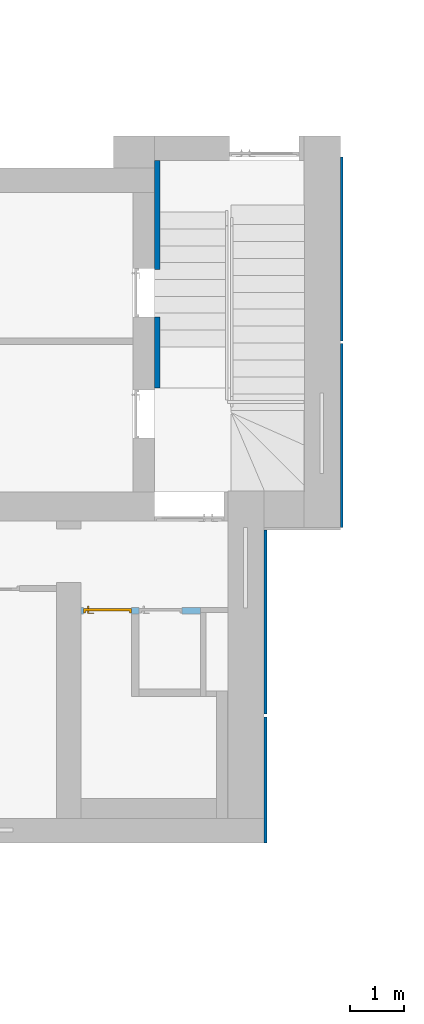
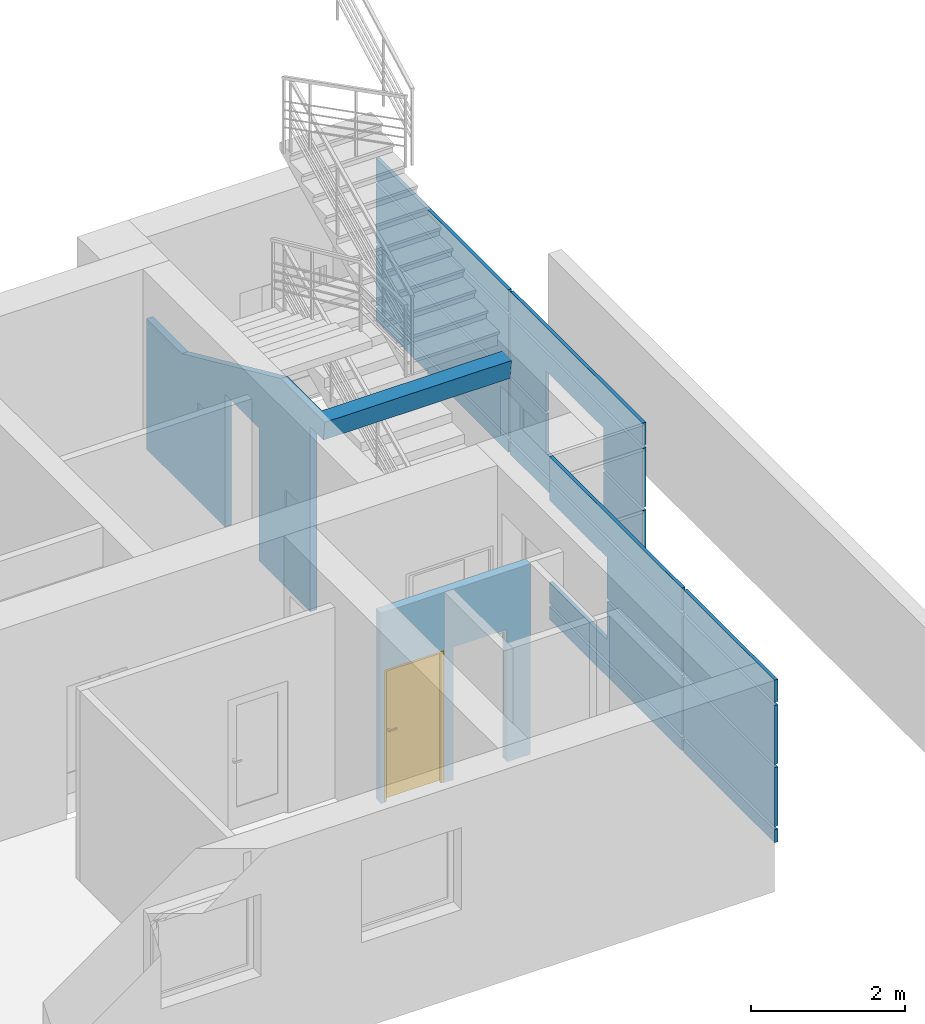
# One storey, part 40 of 49: 3 walls, 1 door, 2 openings, plus 1 element that does not belong to this part.
"""IFC2X3 building model written with IfcOpenShell, lengths in millimetres."""

from ifc_helpers import new_model, entity, si_unit, converted_unit, derived_unit, direction, frame, frame_2d, origin, place, context, subcontext, project, spatial, rectangle, extrude, face_set, faceted_brep, surface_model, source, transform, mapped, material, material_list, layer, layer_set, layer_usage, type_object, type_shapes, element, fill, save


model = new_model("IFC2X3")

# Units and contexts
model_context = context("Model", 3, precision=0.01, world=origin(), true_north=direction((6.12303176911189e-17, 1.0)))
body_context = subcontext(model_context, "Body", "Model", "MODEL_VIEW")
ifc_project = project(units=[si_unit("LENGTHUNIT", "METRE", prefix="MILLI"), si_unit("AREAUNIT", "SQUARE_METRE"), si_unit("VOLUMEUNIT", "CUBIC_METRE"), converted_unit("PLANEANGLEUNIT", "DEGREE", entity("IfcRatioMeasure", 0.0174532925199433), si_unit("PLANEANGLEUNIT", "RADIAN"), dimensions=[0, 0, 0, 0, 0, 0, 0]), si_unit("MASSUNIT", "GRAM", prefix="KILO"), derived_unit("MASSDENSITYUNIT", [(si_unit("MASSUNIT", "GRAM", prefix="KILO"), 1), (si_unit("LENGTHUNIT", "METRE"), -3)]), si_unit("TIMEUNIT", "SECOND"), si_unit("FREQUENCYUNIT", "HERTZ"), si_unit("THERMODYNAMICTEMPERATUREUNIT", "DEGREE_CELSIUS"), derived_unit("THERMALTRANSMITTANCEUNIT", [(si_unit("MASSUNIT", "GRAM", prefix="KILO"), 1), (si_unit("THERMODYNAMICTEMPERATUREUNIT", "KELVIN"), -1), (si_unit("TIMEUNIT", "SECOND"), -3)]), derived_unit("VOLUMETRICFLOWRATEUNIT", [(si_unit("LENGTHUNIT", "METRE"), 3), (si_unit("TIMEUNIT", "SECOND"), -1)]), si_unit("ELECTRICCURRENTUNIT", "AMPERE"), si_unit("ELECTRICVOLTAGEUNIT", "VOLT"), si_unit("POWERUNIT", "WATT"), si_unit("FORCEUNIT", "NEWTON", prefix="KILO"), si_unit("ILLUMINANCEUNIT", "LUX"), si_unit("LUMINOUSFLUXUNIT", "LUMEN"), si_unit("LUMINOUSINTENSITYUNIT", "CANDELA"), derived_unit("USERDEFINED", [(si_unit("MASSUNIT", "GRAM", prefix="KILO"), -1), (si_unit("LENGTHUNIT", "METRE"), -2), (si_unit("TIMEUNIT", "SECOND"), 3), (si_unit("LUMINOUSFLUXUNIT", "LUMEN"), 1)]), derived_unit("LINEARVELOCITYUNIT", [(si_unit("LENGTHUNIT", "METRE"), 1), (si_unit("TIMEUNIT", "SECOND"), -1)]), si_unit("PRESSUREUNIT", "PASCAL"), derived_unit("USERDEFINED", [(si_unit("LENGTHUNIT", "METRE"), -2), (si_unit("MASSUNIT", "GRAM", prefix="KILO"), 1), (si_unit("TIMEUNIT", "SECOND"), -2)])], contexts=[model_context])

# Site, building, storey
site_placement = place(None, frame((-151.875543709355, 2715.0, 0.0)))
site = spatial("IfcSite", under=ifc_project, at=site_placement, Name="Surface", CompositionType="ELEMENT")
building_placement = place(site_placement, origin())
building = spatial("IfcBuilding", under=site, at=building_placement, CompositionType="ELEMENT")
storey_placement = place(building_placement, origin())
storey = spatial("IfcBuildingStorey", under=building, at=storey_placement, Name="1 korrus", CompositionType="ELEMENT", Elevation=3.0969999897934e-10)

# Wall
ifc_material_1 = material(Name="Paint - Light Gray")
wall_type_1 = type_object("IfcWallType", Name="OBJEKT-013", PredefinedType="NOTDEFINED", material=ifc_material_1)
wall_1_placement = place(storey_placement, frame((32371.6162682, 8117.14112622, 0.0), z_axis=(0.0, 0.0, 1.0), x_axis=(0.0, 1.0, 0.0)))
element("IfcWall", 1, at=wall_1_placement, inside=storey, type_object=wall_type_1, material=ifc_material_1, Name="OBJEKT-013:OBJEKT-013", ObjectType="OBJEKT-013:OBJEKT-013", context=body_context, shape_type="SurfaceModel", body=[
    surface_model("IfcFaceBasedSurfaceModel", [(190.167070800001, 0.0, 3230.02767562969), (190.167070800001, -100.0, 3230.02767562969), (247.693511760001, -100.0, 3230.02767562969), (1141.52009683, -100.0, 3230.02767562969), (1141.52009683, 0.0, 3230.02767562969), (190.167070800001, -100.0, 3230.02767562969), (190.167070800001, 0.0, 3230.02767562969), (0.0, 0.0, 3230.02767562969), (0.0, -2800.0, 3230.02767562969), (247.693511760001, -2800.0, 3230.02767562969), (247.693511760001, -100.0, 3230.02767562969), (190.167070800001, -100.0, 2924.57723617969), (247.693511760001, -100.0, 3230.02767562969), (1141.52009683, -100.0, 3230.02767562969), (3713.86615838, -100.0, 2065.07253646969), (4632.85887378, -100.0, 2065.07253646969), (4632.85887378, -100.0, 0.0), (2591.68684618, -100.0, 0.0), (2591.68684618, -100.0, 2100.0), (1711.99536163, -100.0, 2100.0), (1711.99536163, -100.0, 0.0), (379.80330127, -100.0, 0.0), (379.80330127, -100.0, 2924.57723617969), (1141.52009683, 0.0, 3230.02767562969), (1141.52009683, -100.0, 3230.02767562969), (3713.86615838, -100.0, 2065.07253646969), (3713.86615838, 0.0, 2065.07253646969), (190.167070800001, 0.0, 2924.57723617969), (40.9361137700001, 0.0, 2924.57723617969), (0.0, 0.0, 3230.02767562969), (190.167070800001, 0.0, 3230.02767562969), (1141.52009683, 0.0, 3230.02767562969), (3713.86615838, 0.0, 2065.07253646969), (4632.85887378, 0.0, 2065.07253646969), (4632.85887378, 0.0, 0.0), (2591.68684618, 0.0, 0.0), (2591.68684618, 0.0, 2100.0), (1711.99536163, 0.0, 2100.0), (1711.99536163, 0.0, 0.0), (379.80330127, 0.0, 0.0), (379.80330127, 0.0, 2924.57723617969), (0.0, 0.0, 3230.02767562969), (40.9361137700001, 0.0, 2924.57723617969), (40.9361137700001, -2800.0, 2924.57723617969), (0.0, -2800.0, 3230.02767562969), (40.9361137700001, -2800.0, 2924.57723617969), (190.167070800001, -2800.0, 2924.57723617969), (247.693511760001, -2800.0, 3230.02767562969), (0.0, -2800.0, 3230.02767562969), (190.167070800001, -2800.0, 2924.57723617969), (190.167070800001, -100.0, 2924.57723617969), (247.693511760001, -100.0, 3230.02767562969), (247.693511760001, -2800.0, 3230.02767562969), (190.167070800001, 0.0, 2924.57723617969), (379.80330127, 0.0, 2924.57723617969), (379.80330127, -100.0, 2924.57723617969), (190.167070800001, -100.0, 2924.57723617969), (379.80330127, 0.0, 2924.57723617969), (379.80330127, 0.0, 0.0), (379.80330127, -100.0, 0.0), (379.80330127, -100.0, 2924.57723617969), (379.80330127, 0.0, 0.0), (1711.99536163, 0.0, 0.0), (1711.99536163, -100.0, 0.0), (379.80330127, -100.0, 0.0), (1711.99536163, 0.0, 0.0), (1711.99536163, 0.0, 2100.0), (1711.99536163, -100.0, 2100.0), (1711.99536163, -100.0, 0.0), (1711.99536163, 0.0, 2100.0), (2591.68684618, 0.0, 2100.0), (2591.68684618, -100.0, 2100.0), (1711.99536163, -100.0, 2100.0), (2591.68684618, 0.0, 2100.0), (2591.68684618, 0.0, 0.0), (2591.68684618, -100.0, 0.0), (2591.68684618, -100.0, 2100.0), (2591.68684618, 0.0, 0.0), (4632.85887378, 0.0, 0.0), (4632.85887378, -100.0, 0.0), (2591.68684618, -100.0, 0.0), (4632.85887378, 0.0, 0.0), (4632.85887378, 0.0, 2065.07253646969), (4632.85887378, -100.0, 2065.07253646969), (4632.85887378, -100.0, 0.0), (3713.86615838, 0.0, 2065.07253646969), (3713.86615838, -100.0, 2065.07253646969), (4632.85887378, -100.0, 2065.07253646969), (4632.85887378, 0.0, 2065.07253646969), (40.9361137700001, 0.0, 2924.57723617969), (190.167070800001, 0.0, 2924.57723617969), (190.167070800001, -100.0, 2924.57723617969), (190.167070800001, -2800.0, 2924.57723617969), (40.9361137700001, -2800.0, 2924.57723617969)], [face_set([[[0, 1, 2, 3, 4]]]), face_set([[[5, 6, 7, 8, 9, 10]]]), face_set([[[11, 12, 13, 14, 15, 16, 17, 18, 19, 20, 21, 22]]]), face_set([[[23, 24, 25, 26]]]), face_set([[[27, 28, 29, 30, 31, 32, 33, 34, 35, 36, 37, 38, 39, 40]]]), face_set([[[41, 42, 43, 44]]]), face_set([[[45, 46, 47, 48]]]), face_set([[[49, 50, 51, 52]]]), face_set([[[53, 54, 55, 56]]]), face_set([[[57, 58, 59, 60]]]), face_set([[[61, 62, 63, 64]]]), face_set([[[65, 66, 67, 68]]]), face_set([[[69, 70, 71, 72]]]), face_set([[[73, 74, 75, 76]]]), face_set([[[77, 78, 79, 80]]]), face_set([[[81, 82, 83, 84]]]), face_set([[[85, 86, 87, 88]]]), face_set([[[89, 90, 91, 92, 93]]])]),
])

# Wall, openings, door
ifc_material_2 = material(Name="__Kips GN13_tava")
ifc_layer_1 = layer(ifc_material_2, 12.5)
ifc_layer_2 = layer(ifc_material_2, 12.5)
ifc_material_3 = material(Name="__Soojustus EPS")
ifc_layer_3 = layer(ifc_material_3, 66.0)
ifc_material_4 = material(Name="__Kips GKB_niiskuskindel")
ifc_layer_4 = layer(ifc_material_4, 12.5)
ifc_layer_5 = layer(ifc_material_4, 12.5)
ifc_material_5 = material(Name="Keraamiline_plaat")
ifc_layer_6 = layer(ifc_material_5, 10.0)
ifc_layer_set = layer_set([ifc_layer_1, ifc_layer_2, ifc_layer_3, ifc_layer_4, ifc_layer_5, ifc_layer_6], Name="Basic Wall:SS-4_Kipssein tava ja niiske ruumi vahel")
ifc_layer_usage = layer_usage(ifc_layer_set, "AXIS2", "NEGATIVE", 63.0)
wall_type_2 = type_object("IfcWallType", Name="Basic Wall:SS-4_Kipssein tava ja niiske ruumi vahel", PredefinedType="STANDARD", material=ifc_layer_set)
wall_2_placement = place(storey_placement, frame((30994.0171594, 4338.60967891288, 0.0)))
wall_2 = element("IfcWallStandardCase", 2, at=wall_2_placement, inside=storey, type_object=wall_type_2, material=ifc_layer_usage, Name="Basic Wall:SS-4_Kipssein tava ja niiske ruumi vahel", ObjectType="Basic Wall:SS-4_Kipssein tava ja niiske ruumi vahel", context=body_context, shape_type="SweptSolid", body=[
    extrude(rectangle(XDim=2237.7407125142, YDim=126.0, at=frame_2d((1118.8703562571, 1.06581410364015e-14), x_axis=(-1.0, 0.0))), origin(), (0.0, 0.0, 1.0), 3020.0),
])
opening_1_placement = place(wall_2_placement, frame((1090.16571471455, -63.0, 0.0)))
element("IfcOpeningElement", 3, at=opening_1_placement, cuts=wall_2, Name="Ühepoolsed:SU-05.:1", ObjectType="Opening", context=body_context, shape_type="SweptSolid", body=[
    extrude(rectangle(XDim=2099.99999999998, YDim=800.0, at=frame_2d((1049.99999999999, 400.0), x_axis=(1.0, 0.0))), frame((0.0, 0.0, 0.0), z_axis=(0.0, 1.0, 0.0), x_axis=(0.0, 0.0, 1.0)), (0.0, 0.0, 1.0), 126.0),
])
opening_2_placement = place(wall_2_placement, frame((50.1397079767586, -63.0, 0.0)))
opening_2 = element("IfcOpeningElement", 4, at=opening_2_placement, cuts=wall_2, Name="Ühepoolsed:SU-06.:1", ObjectType="Opening", context=body_context, shape_type="SweptSolid", body=[
    extrude(rectangle(XDim=2099.99999999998, YDim=900.0, at=frame_2d((1049.99999999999, 450.0), x_axis=(1.0, 0.0))), frame((0.0, 0.0, 0.0), z_axis=(0.0, 1.0, 0.0), x_axis=(0.0, 0.0, 1.0)), (0.0, 0.0, 1.0), 126.0),
])
ifc_material_6 = material(Name="_Alumiiniumprofiil - must")
ifc_material_7 = material(Name="__Uks_hele tamm")
ifc_material_list_1 = material_list([ifc_material_6, ifc_material_7])
ifc_material_list_2 = material_list([ifc_material_6, ifc_material_7])
door_style = type_object("IfcDoorStyle", Name="SU-06.", ConstructionType="NOTDEFINED", OperationType="FOLDING_TO_LEFT", ParameterTakesPrecedence=False, Sizeable=False, material=ifc_material_list_2)
shared_shape = source(origin(), body_context, "Body", "Brep", [
    faceted_brep([(100.0, 16.0, 1112.5), (100.0, 54.0, 1112.5), (75.0, 54.0, 1112.5), (75.0, 11.0, 1112.5), (195.0, 11.0, 1112.5), (195.0, 16.0, 1112.5), (100.0, 16.0, 1087.5), (195.0, 16.0, 1087.5), (195.0, 11.0, 1087.5), (75.0, 11.0, 1087.5), (75.0, 54.0, 1087.5), (100.0, 54.0, 1087.5)], [[[0, 1, 2, 3, 4, 5]], [[6, 7, 8, 9, 10, 11]], [[1, 0, 6, 11]], [[2, 1, 11, 10]], [[3, 2, 10, 9]], [[4, 3, 9, 8]], [[5, 4, 8, 7]], [[0, 5, 7, 6]]]),
    faceted_brep([(112.5, 54.0, 1137.5), (112.5, 56.0, 1137.5), (62.5, 56.0, 1137.5), (62.5, 54.0, 1137.5), (112.5, 54.0, 1017.5), (62.5, 54.0, 1017.5), (62.5, 56.0, 1017.5), (112.5, 56.0, 1017.5)], [[[0, 1, 2, 3]], [[4, 5, 6, 7]], [[1, 0, 4, 7]], [[2, 1, 7, 6]], [[3, 2, 6, 5]], [[0, 3, 5, 4]]]),
    faceted_brep([(100.0, 146.0, 1112.5), (195.0, 146.0, 1112.5), (195.0, 151.0, 1112.5), (75.0, 151.0, 1112.5), (75.0, 108.0, 1112.5), (100.0, 108.0, 1112.5), (100.0, 146.0, 1087.5), (100.0, 108.0, 1087.5), (75.0, 108.0, 1087.5), (75.0, 151.0, 1087.5), (195.0, 151.0, 1087.5), (195.0, 146.0, 1087.5)], [[[0, 1, 2, 3, 4, 5]], [[6, 7, 8, 9, 10, 11]], [[5, 7, 6, 0]], [[4, 8, 7, 5]], [[3, 9, 8, 4]], [[2, 10, 9, 3]], [[1, 11, 10, 2]], [[0, 6, 11, 1]]]),
    faceted_brep([(112.5, 108.0, 1137.5), (62.5, 108.0, 1137.5), (62.5, 106.0, 1137.5), (112.5, 106.0, 1137.5), (112.5, 108.0, 1017.5), (112.5, 106.0, 1017.5), (62.5, 106.0, 1017.5), (62.5, 108.0, 1017.5)], [[[0, 1, 2, 3]], [[4, 5, 6, 7]], [[3, 5, 4, 0]], [[2, 6, 5, 3]], [[1, 7, 6, 2]], [[0, 4, 7, 1]]]),
    faceted_brep([(900.0, 16.0, 0.0), (860.0, 16.0, 0.0), (860.0, 56.0, 0.0), (875.0, 56.0, 0.0), (875.0, 106.0, 0.0), (900.0, 106.0, 0.0), (900.0, 16.0, 2100.0), (0.0, 16.0, 2100.0), (0.0, 16.0, 0.0), (40.0, 16.0, 0.0), (40.0, 16.0, 2060.0), (860.0, 16.0, 2060.0), (860.0, 56.0, 2060.0), (40.0, 56.0, 2060.0), (40.0, 56.0, 0.0), (25.0, 56.0, 0.0), (25.0, 56.0, 2075.0), (875.0, 56.0, 2075.0), (875.0, 106.0, 2075.0), (25.0, 106.0, 2075.0), (25.0, 106.0, 0.0), (0.0, 106.0, 0.0), (0.0, 106.0, 2100.0), (900.0, 106.0, 2100.0)], [[[0, 1, 2, 3, 4, 5]], [[1, 0, 6, 7, 8, 9, 10, 11]], [[2, 1, 11, 12]], [[3, 2, 12, 13, 14, 15, 16, 17]], [[4, 3, 17, 18]], [[5, 4, 18, 19, 20, 21, 22, 23]], [[0, 5, 23, 6]], [[8, 7, 22, 21]], [[9, 8, 21, 20, 15, 14]], [[10, 9, 14, 13]], [[16, 15, 20, 19]], [[11, 10, 13, 12]], [[17, 16, 19, 18]], [[7, 6, 23, 22]]]),
    faceted_brep([(25.0, 56.0, 2075.0), (25.0, 56.0, 20.0), (875.0, 56.0, 20.0), (875.0, 56.0, 2075.0), (25.0, 106.0, 2075.0), (875.0, 106.0, 2075.0), (875.0, 106.0, 20.0), (25.0, 106.0, 20.0)], [[[0, 1, 2, 3]], [[4, 5, 6, 7]], [[1, 0, 4, 7]], [[2, 1, 7, 6]], [[3, 2, 6, 5]], [[0, 3, 5, 4]]]),
])
type_shapes(door_style, [shared_shape])
door_placement = place(opening_2_placement, origin())
door = element("IfcDoor", 5, at=door_placement, inside=storey, type_object=door_style, material=ifc_material_list_1, Name="Ühepoolsed:SU-06.", ObjectType="SU-06.", OverallHeight=2099.99999999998, OverallWidth=900.000000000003, context=body_context, shape_type="MappedRepresentation", body=[
    mapped(shared_shape, transform((0.0, 0.0, 0.0), scale=1.0)),
])
fill(opening_2, door)

# Walls
ifc_material_8 = material(Name="Steel/Aluminium")
wall_type_3 = type_object("IfcWallType", Name="fassaad5.3:fassaad5.3", PredefinedType="NOTDEFINED", material=ifc_material_8)
wall_3_placement = place(storey_placement, frame((35845.6162682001, 5891.0, 774.90546009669), z_axis=(0.0, 0.0, 1.0), x_axis=(0.0, 1.0, 0.0)))
element("IfcWall", 6, at=wall_3_placement, inside=storey, type_object=wall_type_3, material=ifc_material_8, Name="fassaad5.3:fassaad5.3", ObjectType="fassaad5.3:fassaad5.3", context=body_context, shape_type="Brep", body=[
    faceted_brep([(1012.0, 0.0, 1240.0), (0.0, 0.0, 1240.0), (0.0, 0.0, 2175.0), (3435.0, 0.0, 2175.0), (3435.0, 0.0, 1240.0), (2512.0, 0.0, 1240.0), (2512.0, 0.0, 1885.0), (1012.0, 0.0, 1885.0), (1012.0, -50.0, 1240.0), (0.0, -50.0, 1240.0), (0.0, -50.0, 2175.0), (3435.0, -50.0, 2175.0), (3435.0, -50.0, 1240.0), (1012.0, -50.0, 1885.0), (2512.0, -50.0, 1885.0), (2512.0, -50.0, 1240.0)], [[[0, 1, 2, 3, 4, 5, 6, 7]], [[0, 8, 9, 1]], [[1, 9, 10, 2]], [[3, 11, 12, 4]], [[2, 10, 11, 3]], [[7, 13, 8, 0]], [[6, 14, 13, 7]], [[5, 15, 14, 6]], [[4, 12, 15, 5]], [[8, 13, 14, 15, 12, 11, 10, 9]]]),
    faceted_brep([(6920.0, 0.0, 0.0), (6920.0, -50.0, 0.0), (3485.0, -50.0, 0.0), (3485.0, 0.0, 0.0), (6920.0, 0.0, 205.0), (6920.0, -50.0, 205.0), (3485.0, 0.0, 205.0), (3485.0, -50.0, 205.0)], [[[0, 1, 2, 3]], [[4, 5, 1, 0]], [[6, 7, 5, 4]], [[3, 2, 7, 6]], [[2, 1, 5, 7]], [[3, 6, 4, 0]]]),
    faceted_brep([(3485.0, 0.0, 1190.0), (3485.0, -50.0, 1190.0), (6920.0, -50.0, 1190.0), (6920.0, 0.0, 1190.0), (3485.0, 0.0, 255.0), (3485.0, -50.0, 255.0), (6920.0, 0.0, 255.0), (6920.0, -50.0, 255.0)], [[[0, 1, 2, 3]], [[4, 5, 1, 0]], [[6, 7, 5, 4]], [[3, 2, 7, 6]], [[2, 1, 5, 7]], [[3, 6, 4, 0]]]),
    faceted_brep([(3435.0, 0.0, 1190.0), (3435.0, -50.0, 1190.0), (3435.0, -50.0, 255.0), (3435.0, 0.0, 255.0), (0.0, 0.0, 1190.0), (0.0, -50.0, 1190.0), (1012.0, -50.0, 1190.0), (1012.0, 0.0, 1190.0), (0.0, 0.0, 255.0), (0.0, -50.0, 255.0), (2512.0, 0.0, 1190.0), (2512.0, -50.0, 1190.0), (2512.0, 0.0, 585.0), (2512.0, -50.0, 585.0), (1012.0, 0.0, 585.0), (1012.0, -50.0, 585.0)], [[[0, 1, 2, 3]], [[4, 5, 6, 7]], [[8, 9, 5, 4]], [[3, 2, 9, 8]], [[10, 11, 1, 0]], [[12, 13, 11, 10]], [[14, 15, 13, 12]], [[7, 6, 15, 14]], [[2, 1, 11, 13, 15, 6, 5, 9]], [[3, 8, 4, 7, 14, 12, 10, 0]]]),
    faceted_brep([(0.0, 0.0, 205.0), (0.0, -50.0, 205.0), (3435.0, -50.0, 205.0), (3435.0, 0.0, 205.0), (0.0, 0.0, 0.0), (0.0, -50.0, 0.0), (3435.0, 0.0, 0.0), (3435.0, -50.0, 0.0)], [[[0, 1, 2, 3]], [[4, 5, 1, 0]], [[6, 7, 5, 4]], [[3, 2, 7, 6]], [[2, 1, 5, 7]], [[3, 6, 4, 0]]]),
    faceted_brep([(0.0, 0.0, 2575.0), (0.0, -50.0, 2575.0), (3435.0, -50.0, 2575.0), (3435.0, 0.0, 2575.0), (0.0, 0.0, 2225.0), (0.0, -50.0, 2225.0), (3435.0, -50.0, 2225.0), (3435.0, 0.0, 2225.0)], [[[0, 1, 2, 3]], [[4, 5, 1, 0]], [[3, 2, 6, 7]], [[7, 6, 5, 4]], [[2, 1, 5, 6]], [[3, 7, 4, 0]]]),
    faceted_brep([(6920.0, 0.0, 2575.0), (6920.0, -50.0, 2575.0), (6920.0, -50.0, 2225.0), (6920.0, 0.0, 2225.0), (3485.0, 0.0, 2575.0), (3485.0, -50.0, 2575.0), (3485.0, 0.0, 2225.0), (3485.0, -50.0, 2225.0)], [[[0, 1, 2, 3]], [[4, 5, 1, 0]], [[6, 7, 5, 4]], [[3, 2, 7, 6]], [[7, 2, 1, 5]], [[6, 4, 0, 3]]]),
    faceted_brep([(6920.0, 0.0, 2175.0), (6920.0, -50.0, 2175.0), (6920.0, -50.0, 1240.0), (6920.0, 0.0, 1240.0), (3485.0, -50.0, 1240.0), (3485.0, 0.0, 1240.0), (3485.0, 0.0, 2175.0), (3485.0, -50.0, 2175.0)], [[[0, 1, 2, 3]], [[3, 2, 4, 5]], [[6, 7, 1, 0]], [[5, 4, 7, 6]], [[1, 7, 4, 2]], [[0, 3, 5, 6]]]),
])
wall_type_4 = type_object("IfcWallType", Name="fassaad7.3:fassaad7.3", PredefinedType="NOTDEFINED", material=ifc_material_8)
wall_4_placement = place(storey_placement, frame((34420.6162682, -1079.0, 774.90546009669), z_axis=(0.0, 0.0, 1.0), x_axis=(0.0, 1.0, 0.0)))
element("IfcWall", 7, at=wall_4_placement, inside=storey, type_object=wall_type_4, material=ifc_material_8, Name="fassaad7.3:fassaad7.3", ObjectType="fassaad7.3:fassaad7.3", context=body_context, shape_type="Brep", body=[
    faceted_brep([(3435.0, 0.0, 205.0), (3435.0, 0.0, 0.0), (1080.0, 0.0, 0.0), (1080.0, 0.0, 205.0), (1080.0, -50.0, 205.0), (3435.0, -50.0, 205.0), (1080.0, -50.0, 0.0), (3435.0, -50.0, 0.0)], [[[0, 1, 2, 3]], [[3, 4, 5, 0]], [[2, 6, 4, 3]], [[1, 7, 6, 2]], [[0, 5, 7, 1]], [[5, 4, 6, 7]]]),
    faceted_brep([(6920.0, 0.0, 0.0), (6920.0, -50.0, 0.0), (3485.0, -50.0, 0.0), (3485.0, 0.0, 0.0), (6920.0, 0.0, 205.0), (6920.0, -50.0, 205.0), (3485.0, 0.0, 205.0), (3485.0, -50.0, 205.0)], [[[0, 1, 2, 3]], [[4, 5, 1, 0]], [[6, 7, 5, 4]], [[3, 2, 7, 6]], [[2, 1, 5, 7]], [[3, 6, 4, 0]]]),
    faceted_brep([(3435.0, 0.0, 1190.0), (3435.0, -50.0, 1190.0), (3435.0, -50.0, 255.0), (3435.0, 0.0, 255.0), (1080.0, 0.0, 1190.0), (1080.0, -50.0, 1190.0), (1080.0, 0.0, 255.0), (1080.0, -50.0, 255.0)], [[[0, 1, 2, 3]], [[4, 5, 1, 0]], [[6, 7, 5, 4]], [[3, 2, 7, 6]], [[2, 1, 5, 7]], [[3, 6, 4, 0]]]),
    faceted_brep([(5420.0, 0.0, 585.0), (5420.0, -50.0, 585.0), (6920.0, -50.0, 585.0), (6920.0, 0.0, 585.0), (5420.0, 0.0, 1190.0), (5420.0, -50.0, 1190.0), (3485.0, 0.0, 1190.0), (3485.0, -50.0, 1190.0), (3485.0, 0.0, 255.0), (3485.0, -50.0, 255.0), (6920.0, 0.0, 255.0), (6920.0, -50.0, 255.0)], [[[0, 1, 2, 3]], [[4, 5, 1, 0]], [[6, 7, 5, 4]], [[8, 9, 7, 6]], [[10, 11, 9, 8]], [[3, 2, 11, 10]], [[2, 1, 5, 7, 9, 11]], [[3, 10, 8, 6, 4, 0]]]),
    faceted_brep([(1080.0, 0.0, 2575.0), (1080.0, -50.0, 2575.0), (3435.0, -50.0, 2575.0), (3435.0, 0.0, 2575.0), (1080.0, 0.0, 2225.0), (1080.0, -50.0, 2225.0), (3435.0, -50.0, 2225.0), (3435.0, 0.0, 2225.0)], [[[0, 1, 2, 3]], [[4, 5, 1, 0]], [[3, 2, 6, 7]], [[7, 6, 5, 4]], [[2, 1, 5, 6]], [[3, 7, 4, 0]]]),
    faceted_brep([(6920.0, 0.0, 2575.0), (6920.0, -50.0, 2575.0), (6920.0, -50.0, 2225.0), (6920.0, 0.0, 2225.0), (3485.0, 0.0, 2575.0), (3485.0, -50.0, 2575.0), (3485.0, 0.0, 2225.0), (3485.0, -50.0, 2225.0)], [[[0, 1, 2, 3]], [[4, 5, 1, 0]], [[6, 7, 5, 4]], [[3, 2, 7, 6]], [[7, 2, 1, 5]], [[6, 4, 0, 3]]]),
    faceted_brep([(3435.0, 0.0, 1240.0), (3435.0, -50.0, 1240.0), (1080.0, -50.0, 1240.0), (1080.0, 0.0, 1240.0), (1080.0, -50.0, 2175.0), (1080.0, 0.0, 2175.0), (3435.0, 0.0, 2175.0), (3435.0, -50.0, 2175.0)], [[[0, 1, 2, 3]], [[3, 2, 4, 5]], [[6, 7, 1, 0]], [[5, 4, 7, 6]], [[1, 7, 4, 2]], [[0, 3, 5, 6]]]),
    faceted_brep([(6920.0, 0.0, 2175.0), (6920.0, -50.0, 2175.0), (6920.0, -50.0, 1885.0), (6920.0, 0.0, 1885.0), (3485.0, 0.0, 2175.0), (3485.0, -50.0, 2175.0), (3485.0, 0.0, 1240.0), (3485.0, -50.0, 1240.0), (5420.0, 0.0, 1885.0), (5420.0, -50.0, 1885.0), (5420.0, -50.0, 1240.0), (5420.0, 0.0, 1240.0)], [[[0, 1, 2, 3]], [[4, 5, 1, 0]], [[6, 7, 5, 4]], [[8, 9, 10, 11]], [[3, 2, 9, 8]], [[11, 10, 7, 6]], [[1, 5, 7, 10, 9, 2]], [[0, 3, 8, 11, 6, 4]]]),
])

save(model, "model.ifc")
